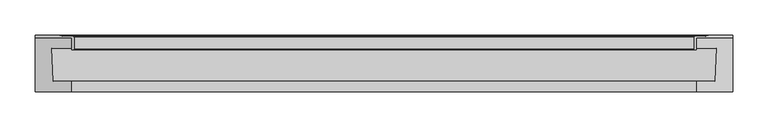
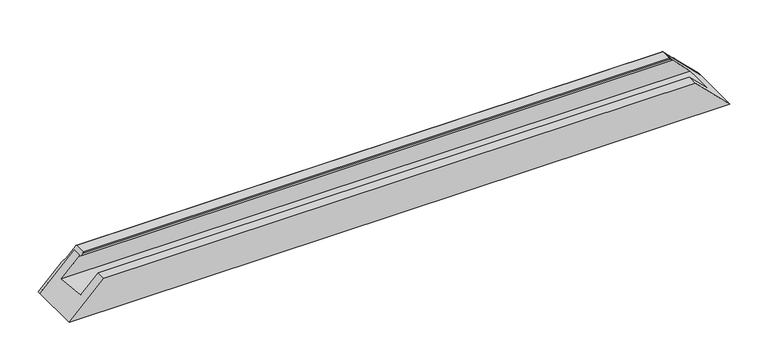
"""IFC4 building model written with IfcOpenShell, lengths in millimetres: proxy geometry, Weiku - Montante - Caixilho duplo 02.2.01.002 : Weiku - Montante - Caixilho duplo 02.2.01.002."""

from ifc_helpers import new_model, si_unit, frame, origin, place, context, project, spatial, polyline, ellipse_curve, faceted_brep, source, transform, mapped, element, save
from ifc_brep_helpers import plane_surface, cylinder_surface, revolved_surface, advanced_brep


def generic_models_a6cdee66(model_context):
    return source(origin(), model_context, "Body", "SolidModel", [
        advanced_brep(
        [(-445.5, 60.0, 52.0), (-442.5, 60.0, 55.0), (-441.5, 61.0, 56.0), (-441.5, 78.0, 56.0), (-442.5, 79.0, 55.0), (-456.5, 79.0, 41.0), (-459.5, 80.0, 38.0), (-462.5, 81.0, 35.0), (-497.5, 81.0, 0.0), (-497.5, 77.0, 0.0), (-445.5, 77.0, 52.0), (445.5, 60.0, 52.0), (442.5, 60.0, 55.0), (441.5, 61.0, 56.0), (441.5, 78.0, 56.0), (442.5, 79.0, 55.0), (456.5, 79.0, 41.0), (459.5, 80.0, 38.0), (462.5, 81.0, 35.0), (497.5, 81.0, 0.0), (497.5, 77.0, 0.0), (445.5, 77.0, 52.0)],
        [
            (0, 1),
            (1, 2, ellipse_curve(frame((-442.5, 61.0, 55.0), z_axis=(-0.707106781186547, 0.0, 0.7071067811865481), x_axis=(-0.7071067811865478, 0.0, -0.707106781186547)), 1.4142136, 1.0)),
            (2, 3),
            (3, 4, ellipse_curve(frame((-442.5, 78.0, 55.0), z_axis=(-0.707106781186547, 0.0, 0.7071067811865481), x_axis=(-0.7071067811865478, 0.0, -0.707106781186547)), 1.4142136, 1.0)),
            (4, 5),
            (5, 6, ellipse_curve(frame((-456.5, 84.0, 41.0), z_axis=(0.707106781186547, 0.0, -0.7071067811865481), x_axis=(0.7071067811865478, 0.0, 0.707106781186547)), 7.0710678, 5.0)),
            (6, 7, ellipse_curve(frame((-462.5, 76.0, 35.0), z_axis=(-0.707106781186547, 0.0, 0.7071067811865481), x_axis=(-0.7071067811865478, 0.0, -0.707106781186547)), 7.0710678, 5.0)),
            (7, 8),
            (8, 9),
            (9, 10),
            (10, 0),
            (0, 11),
            (11, 12),
            (12, 1),
            (12, 13, ellipse_curve(frame((442.5, 61.0, 55.0), z_axis=(-0.7071067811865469, 0.0, -0.7071067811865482), x_axis=(-0.707106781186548, 0.0, 0.7071067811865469)), 1.4142136, 1.0)),
            (13, 2),
            (13, 14),
            (14, 3),
            (14, 15, ellipse_curve(frame((442.5, 78.0, 55.0), z_axis=(-0.7071067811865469, 0.0, -0.7071067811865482), x_axis=(-0.707106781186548, 0.0, 0.7071067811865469)), 1.4142136, 1.0)),
            (15, 4),
            (15, 16),
            (16, 5),
            (16, 17, ellipse_curve(frame((456.5, 84.0, 41.0), z_axis=(0.7071067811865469, 0.0, 0.7071067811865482), x_axis=(0.707106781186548, 0.0, -0.7071067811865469)), 7.0710678, 5.0)),
            (17, 6),
            (17, 18, ellipse_curve(frame((462.5, 76.0, 35.0), z_axis=(-0.7071067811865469, 0.0, -0.7071067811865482), x_axis=(-0.707106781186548, 0.0, 0.7071067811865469)), 7.0710678, 5.0)),
            (18, 7),
            (19, 8),
            (18, 19),
            (19, 20),
            (20, 9),
            (20, 21),
            (21, 10),
            (21, 11),
        ],
        [
            plane_surface(frame((-497.5, 0.0, 0.0), z_axis=(-0.707106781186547, 0.0, 0.7071067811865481), x_axis=(0.0, 1.0, 0.0))),
            plane_surface(frame((-497.5, 60.0, 52.0), z_axis=(0.0, -1.0, 0.0), x_axis=(1.0, 0.0, 0.0))),
            cylinder_surface(frame((-497.5, 61.0, 55.0), z_axis=(-1.0, 0.0, 0.0), x_axis=(0.0, 1.0, 0.0)), 1.0),
            plane_surface(frame((-497.5, 61.0, 56.0), z_axis=(0.0, 0.0, 1.0), x_axis=(1.0, 0.0, 0.0))),
            cylinder_surface(frame((-497.5, 78.0, 55.0), z_axis=(-1.0, 0.0, 0.0), x_axis=(0.0, 1.0, 0.0)), 1.0),
            plane_surface(frame((-497.5, 79.0, 55.0), z_axis=(0.0, 1.0, 0.0), x_axis=(1.0, 0.0, 0.0))),
            revolved_surface(polyline([(461.4999999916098, 89.0, 41.0), (-461.49999999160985, 89.0, 41.0)]), (-497.5, 84.0, 41.0), (1.0, 0.0, 0.0)),
            cylinder_surface(frame((-497.5, 76.0, 35.0), z_axis=(-1.0, 0.0, 0.0), x_axis=(0.0, 1.0, 0.0)), 5.0),
            plane_surface(frame((-497.5, 81.0, 35.0), z_axis=(0.0, 1.0, 0.0), x_axis=(1.0, 0.0, 0.0))),
            plane_surface(frame((-497.5, 81.0, 0.0), z_axis=(0.0, 0.0, -1.0), x_axis=(1.0, 0.0, 0.0))),
            plane_surface(frame((-497.5, 77.0, 0.0), z_axis=(0.0, -1.0, 0.0), x_axis=(1.0, 0.0, 0.0))),
            plane_surface(frame((-497.5, 77.0, 52.0), z_axis=(0.0, 0.0, -1.0), x_axis=(1.0, 0.0, 0.0))),
            plane_surface(frame((427.5, 0.0, 70.0), z_axis=(0.7071067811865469, 0.0, 0.7071067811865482), x_axis=(0.0, 1.0, 0.0))),
        ],
        [
            (0, [[1, 2, 3, 4, 5, 6, 7, 8, 9, 10, 11]]),
            (1, [[-1, 12, 13, 14]]),
            (2, [[-2, -14, 15, 16]]),
            (3, [[-3, -16, 17, 18]]),
            (4, [[-4, -18, 19, 20]]),
            (5, [[-5, -20, 21, 22]]),
            (6, [[-6, -22, 23, 24]]),
            (7, [[-7, -24, 25, 26]]),
            (8, [[27, -8, -26, 28]]),
            (9, [[-27, 29, 30, -9]]),
            (10, [[-30, 31, 32, -10]]),
            (11, [[-11, -32, 33, -12]]),
            (12, [[-13, -33, -31, -29, -28, -25, -23, -21, -19, -17, -15]]),
        ],
    ),
        faceted_brep([(-471.5, 15.0, 26.0), (-445.5, 15.0, 52.0), (445.5, 15.0, 52.0), (471.5, 15.0, 26.0), (-473.7229744, 62.0, 23.7770256), (473.7229744, 62.0, 23.7770256), (-445.5, 62.0, 52.0), (445.5, 62.0, 52.0), (-445.5, 77.0, 52.0), (445.5, 77.0, 52.0), (497.5, 77.0, 0.0), (-497.5, 77.0, 0.0), (497.5, 0.0, 0.0), (-497.5, 0.0, 0.0), (445.5, 0.0, 52.0), (-445.5, 0.0, 52.0)], [[[0, 1, 2, 3]], [[4, 0, 3, 5]], [[6, 4, 5, 7]], [[8, 6, 7, 9]], [[10, 11, 8, 9]], [[11, 10, 12, 13]], [[13, 12, 14, 15]], [[1, 15, 14, 2]], [[1, 0, 4, 6, 8, 11, 13, 15]], [[3, 2, 14, 12, 10, 9, 7, 5]]]),
    ])


if __name__ == "__main__":
    model = new_model("IFC4")
    model_context = context("Model", 3, world=origin())
    ifc_project = project(units=[si_unit("LENGTHUNIT", "METRE", prefix="MILLI")], contexts=[model_context])
    site = spatial("IfcSite", under=ifc_project)
    building = spatial("IfcBuilding", under=site)
    placement = place(None, origin())
    generic_models_shape = generic_models_a6cdee66(model_context)
    element("IfcBuildingElementProxy", 1, Name="Weiku - Montante - Caixilho duplo 02.2.01.002 : Weiku - Montante - Caixilho duplo 02.2.01.002", ObjectType="Weiku - Montante - Caixilho duplo 02.2.01.002 : Weiku - Montante - Caixilho duplo 02.2.01.002", at=placement, inside=building, context=model_context, shape_type="MappedRepresentation", body=[
        mapped(generic_models_shape, transform((0.0, 0.0, 0.0), x_axis=(1.0, 0.0, 0.0), y_axis=(0.0, 1.0, 0.0), z_axis=(0.0, 0.0, 1.0))),
    ])
    save(model, "model.ifc")
